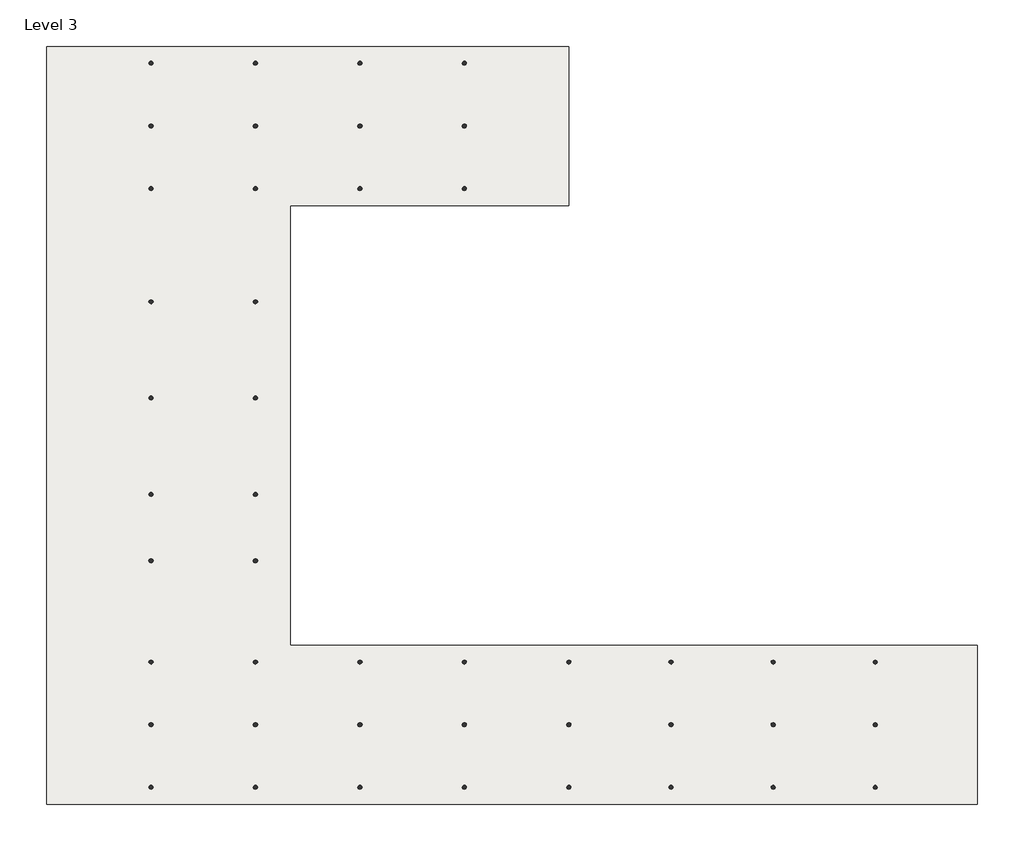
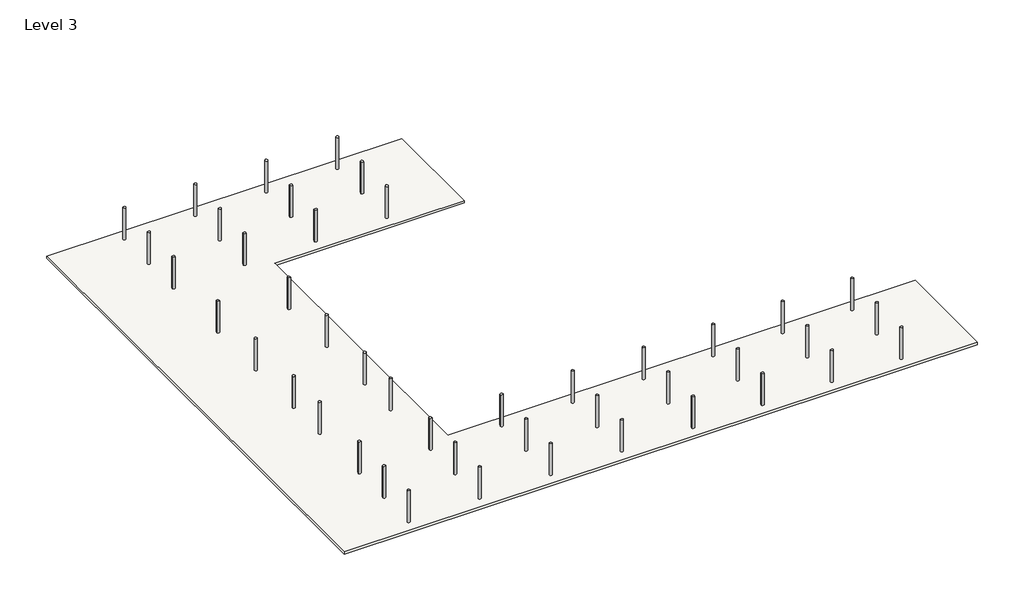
# One storey: 44 columns, 1 slab.
"""IFC4 building model written with IfcOpenShell, lengths in millimetres."""

from ifc_helpers import new_model, si_unit, frame, origin, place, context, project, spatial, polyline, outline, extrude, transform, mapped, element, save
from components import m_concrete_round_column_300mm_4ff81acd

model = new_model("IFC4")

# Units and contexts
model_context = context("Model", 3, world=origin())
ifc_project = project(units=[si_unit("LENGTHUNIT", "METRE", prefix="MILLI")], contexts=[model_context])

# Site, building, storey
site = spatial("IfcSite", under=ifc_project)
building = spatial("IfcBuilding", under=site)
storey = spatial("IfcBuildingStorey", under=building, Name="Level 3", Elevation=7800.0)

# Columns
placement = place(None, origin())
m_concrete_round_column_300mm_shape = m_concrete_round_column_300mm_4ff81acd(model_context)
element("IfcColumn", 1, ObjectType="M_Concrete-Round-Column : 300mm", at=placement, inside=storey, context=model_context, shape_type="MappedRepresentation", body=[
    mapped(m_concrete_round_column_300mm_shape, transform((-2539.0909489, 25116.7095931, 0.0), x_axis=(-1.0, 0.0, 0.0), y_axis=(0.0, -1.0, 0.0), z_axis=(0.0, 0.0, 1.0))),
])
element("IfcColumn", 2, ObjectType="M_Concrete-Round-Column : 300mm", at=placement, inside=storey, context=model_context, shape_type="MappedRepresentation", body=[
    mapped(m_concrete_round_column_300mm_shape, transform((-2539.0909489, 12506.7392059, 0.0), x_axis=(-1.0, 0.0, 0.0), y_axis=(0.0, -1.0, 0.0), z_axis=(0.0, 0.0, 1.0))),
])
element("IfcColumn", 3, ObjectType="M_Concrete-Round-Column : 300mm", at=placement, inside=storey, context=model_context, shape_type="MappedRepresentation", body=[
    mapped(m_concrete_round_column_300mm_shape, transform((-2539.0909489, 5598.6392059, 0.0), x_axis=(-1.0, 0.0, 0.0), y_axis=(0.0, -1.0, 0.0), z_axis=(0.0, 0.0, 1.0))),
])
element("IfcColumn", 4, ObjectType="M_Concrete-Round-Column : 300mm", at=placement, inside=storey, context=model_context, shape_type="MappedRepresentation", body=[
    mapped(m_concrete_round_column_300mm_shape, transform((-2539.0909489, -1309.4607941, 0.0), x_axis=(-1.0, 0.0, 0.0), y_axis=(0.0, -1.0, 0.0), z_axis=(0.0, 0.0, 1.0))),
])
element("IfcColumn", 5, ObjectType="M_Concrete-Round-Column : 300mm", at=placement, inside=storey, context=model_context, shape_type="MappedRepresentation", body=[
    mapped(m_concrete_round_column_300mm_shape, transform((-2539.0909489, -6063.8611817, 0.0), x_axis=(-1.0, 0.0, 0.0), y_axis=(0.0, -1.0, 0.0), z_axis=(0.0, 0.0, 1.0))),
])
element("IfcColumn", 6, ObjectType="M_Concrete-Round-Column : 300mm", at=placement, inside=storey, context=model_context, shape_type="MappedRepresentation", body=[
    mapped(m_concrete_round_column_300mm_shape, transform((-2539.0909489, -17821.5310875, 0.0), x_axis=(-1.0, 0.0, 0.0), y_axis=(0.0, -1.0, 0.0), z_axis=(0.0, 0.0, 1.0))),
])
element("IfcColumn", 7, ObjectType="M_Concrete-Round-Column : 300mm", at=placement, inside=storey, context=model_context, shape_type="MappedRepresentation", body=[
    mapped(m_concrete_round_column_300mm_shape, transform((-2539.0909489, 29618.5799804, 0.0), x_axis=(-1.0, 0.0, 0.0), y_axis=(0.0, -1.0, 0.0), z_axis=(0.0, 0.0, 1.0))),
])
element("IfcColumn", 8, ObjectType="M_Concrete-Round-Column : 300mm", at=placement, inside=storey, context=model_context, shape_type="MappedRepresentation", body=[
    mapped(m_concrete_round_column_300mm_shape, transform((-2539.0909489, 20614.8392059, 0.0), x_axis=(-1.0, 0.0, 0.0), y_axis=(0.0, -1.0, 0.0), z_axis=(0.0, 0.0, 1.0))),
])
element("IfcColumn", 9, ObjectType="M_Concrete-Round-Column : 300mm", at=placement, inside=storey, context=model_context, shape_type="MappedRepresentation", body=[
    mapped(m_concrete_round_column_300mm_shape, transform((-2539.0909489, -13332.3615692, 0.0), x_axis=(-1.0, 0.0, 0.0), y_axis=(0.0, -1.0, 0.0), z_axis=(0.0, 0.0, 1.0))),
])
element("IfcColumn", 10, ObjectType="M_Concrete-Round-Column : 300mm", at=placement, inside=storey, context=model_context, shape_type="MappedRepresentation", body=[
    mapped(m_concrete_round_column_300mm_shape, transform((-2539.0909489, -22310.7006057, 0.0), x_axis=(-1.0, 0.0, 0.0), y_axis=(0.0, -1.0, 0.0), z_axis=(0.0, 0.0, 1.0))),
])
element("IfcColumn", 11, ObjectType="M_Concrete-Round-Column : 300mm", at=placement, inside=storey, context=model_context, shape_type="MappedRepresentation", body=[
    mapped(m_concrete_round_column_300mm_shape, transform((4948.6567657, 25116.7095931, 0.0), x_axis=(-1.0, 0.0, 0.0), y_axis=(0.0, -1.0, 0.0), z_axis=(0.0, 0.0, 1.0))),
])
element("IfcColumn", 12, ObjectType="M_Concrete-Round-Column : 300mm", at=placement, inside=storey, context=model_context, shape_type="MappedRepresentation", body=[
    mapped(m_concrete_round_column_300mm_shape, transform((4948.6567657, 12506.7392059, 0.0), x_axis=(-1.0, 0.0, 0.0), y_axis=(0.0, -1.0, 0.0), z_axis=(0.0, 0.0, 1.0))),
])
element("IfcColumn", 13, ObjectType="M_Concrete-Round-Column : 300mm", at=placement, inside=storey, context=model_context, shape_type="MappedRepresentation", body=[
    mapped(m_concrete_round_column_300mm_shape, transform((4948.6567657, 5598.6392059, 0.0), x_axis=(-1.0, 0.0, 0.0), y_axis=(0.0, -1.0, 0.0), z_axis=(0.0, 0.0, 1.0))),
])
element("IfcColumn", 14, ObjectType="M_Concrete-Round-Column : 300mm", at=placement, inside=storey, context=model_context, shape_type="MappedRepresentation", body=[
    mapped(m_concrete_round_column_300mm_shape, transform((4948.6567657, -1309.4607941, 0.0), x_axis=(-1.0, 0.0, 0.0), y_axis=(0.0, -1.0, 0.0), z_axis=(0.0, 0.0, 1.0))),
])
element("IfcColumn", 15, ObjectType="M_Concrete-Round-Column : 300mm", at=placement, inside=storey, context=model_context, shape_type="MappedRepresentation", body=[
    mapped(m_concrete_round_column_300mm_shape, transform((4948.6567657, -6063.8611817, 0.0), x_axis=(-1.0, 0.0, 0.0), y_axis=(0.0, -1.0, 0.0), z_axis=(0.0, 0.0, 1.0))),
])
element("IfcColumn", 16, ObjectType="M_Concrete-Round-Column : 300mm", at=placement, inside=storey, context=model_context, shape_type="MappedRepresentation", body=[
    mapped(m_concrete_round_column_300mm_shape, transform((4948.6567657, -17821.5310875, 0.0), x_axis=(-1.0, 0.0, 0.0), y_axis=(0.0, -1.0, 0.0), z_axis=(0.0, 0.0, 1.0))),
])
element("IfcColumn", 17, ObjectType="M_Concrete-Round-Column : 300mm", at=placement, inside=storey, context=model_context, shape_type="MappedRepresentation", body=[
    mapped(m_concrete_round_column_300mm_shape, transform((4948.6567657, 29618.5799804, 0.0), x_axis=(-1.0, 0.0, 0.0), y_axis=(0.0, -1.0, 0.0), z_axis=(0.0, 0.0, 1.0))),
])
element("IfcColumn", 18, ObjectType="M_Concrete-Round-Column : 300mm", at=placement, inside=storey, context=model_context, shape_type="MappedRepresentation", body=[
    mapped(m_concrete_round_column_300mm_shape, transform((4948.6567657, 20614.8392059, 0.0), x_axis=(-1.0, 0.0, 0.0), y_axis=(0.0, -1.0, 0.0), z_axis=(0.0, 0.0, 1.0))),
])
element("IfcColumn", 19, ObjectType="M_Concrete-Round-Column : 300mm", at=placement, inside=storey, context=model_context, shape_type="MappedRepresentation", body=[
    mapped(m_concrete_round_column_300mm_shape, transform((4948.6567657, -13332.3615692, 0.0), x_axis=(-1.0, 0.0, 0.0), y_axis=(0.0, -1.0, 0.0), z_axis=(0.0, 0.0, 1.0))),
])
element("IfcColumn", 20, ObjectType="M_Concrete-Round-Column : 300mm", at=placement, inside=storey, context=model_context, shape_type="MappedRepresentation", body=[
    mapped(m_concrete_round_column_300mm_shape, transform((4948.6567657, -22310.7006057, 0.0), x_axis=(-1.0, 0.0, 0.0), y_axis=(0.0, -1.0, 0.0), z_axis=(0.0, 0.0, 1.0))),
])
element("IfcColumn", 21, ObjectType="M_Concrete-Round-Column : 300mm", at=placement, inside=storey, context=model_context, shape_type="MappedRepresentation", body=[
    mapped(m_concrete_round_column_300mm_shape, transform((12436.4044804, 25116.7095931, 0.0), x_axis=(-1.0, 0.0, 0.0), y_axis=(0.0, -1.0, 0.0), z_axis=(0.0, 0.0, 1.0))),
])
element("IfcColumn", 22, ObjectType="M_Concrete-Round-Column : 300mm", at=placement, inside=storey, context=model_context, shape_type="MappedRepresentation", body=[
    mapped(m_concrete_round_column_300mm_shape, transform((12436.4044804, -17821.5310875, 0.0), x_axis=(-1.0, 0.0, 0.0), y_axis=(0.0, -1.0, 0.0), z_axis=(0.0, 0.0, 1.0))),
])
element("IfcColumn", 23, ObjectType="M_Concrete-Round-Column : 300mm", at=placement, inside=storey, context=model_context, shape_type="MappedRepresentation", body=[
    mapped(m_concrete_round_column_300mm_shape, transform((12436.4044804, 29618.5799804, 0.0), x_axis=(-1.0, 0.0, 0.0), y_axis=(0.0, -1.0, 0.0), z_axis=(0.0, 0.0, 1.0))),
])
element("IfcColumn", 24, ObjectType="M_Concrete-Round-Column : 300mm", at=placement, inside=storey, context=model_context, shape_type="MappedRepresentation", body=[
    mapped(m_concrete_round_column_300mm_shape, transform((12436.4044804, 20614.8392059, 0.0), x_axis=(-1.0, 0.0, 0.0), y_axis=(0.0, -1.0, 0.0), z_axis=(0.0, 0.0, 1.0))),
])
element("IfcColumn", 25, ObjectType="M_Concrete-Round-Column : 300mm", at=placement, inside=storey, context=model_context, shape_type="MappedRepresentation", body=[
    mapped(m_concrete_round_column_300mm_shape, transform((12436.4044804, -13332.3615692, 0.0), x_axis=(-1.0, 0.0, 0.0), y_axis=(0.0, -1.0, 0.0), z_axis=(0.0, 0.0, 1.0))),
])
element("IfcColumn", 26, ObjectType="M_Concrete-Round-Column : 300mm", at=placement, inside=storey, context=model_context, shape_type="MappedRepresentation", body=[
    mapped(m_concrete_round_column_300mm_shape, transform((12436.4044804, -22310.7006057, 0.0), x_axis=(-1.0, 0.0, 0.0), y_axis=(0.0, -1.0, 0.0), z_axis=(0.0, 0.0, 1.0))),
])
element("IfcColumn", 27, ObjectType="M_Concrete-Round-Column : 300mm", at=placement, inside=storey, context=model_context, shape_type="MappedRepresentation", body=[
    mapped(m_concrete_round_column_300mm_shape, transform((19924.152195, 25116.7095931, 0.0), x_axis=(-1.0, 0.0, 0.0), y_axis=(0.0, -1.0, 0.0), z_axis=(0.0, 0.0, 1.0))),
])
element("IfcColumn", 28, ObjectType="M_Concrete-Round-Column : 300mm", at=placement, inside=storey, context=model_context, shape_type="MappedRepresentation", body=[
    mapped(m_concrete_round_column_300mm_shape, transform((19924.152195, -17821.5310875, 0.0), x_axis=(-1.0, 0.0, 0.0), y_axis=(0.0, -1.0, 0.0), z_axis=(0.0, 0.0, 1.0))),
])
element("IfcColumn", 29, ObjectType="M_Concrete-Round-Column : 300mm", at=placement, inside=storey, context=model_context, shape_type="MappedRepresentation", body=[
    mapped(m_concrete_round_column_300mm_shape, transform((19924.152195, 29618.5799804, 0.0), x_axis=(-1.0, 0.0, 0.0), y_axis=(0.0, -1.0, 0.0), z_axis=(0.0, 0.0, 1.0))),
])
element("IfcColumn", 30, ObjectType="M_Concrete-Round-Column : 300mm", at=placement, inside=storey, context=model_context, shape_type="MappedRepresentation", body=[
    mapped(m_concrete_round_column_300mm_shape, transform((19924.152195, 20614.8392059, 0.0), x_axis=(-1.0, 0.0, 0.0), y_axis=(0.0, -1.0, 0.0), z_axis=(0.0, 0.0, 1.0))),
])
element("IfcColumn", 31, ObjectType="M_Concrete-Round-Column : 300mm", at=placement, inside=storey, context=model_context, shape_type="MappedRepresentation", body=[
    mapped(m_concrete_round_column_300mm_shape, transform((19924.152195, -13332.3615692, 0.0), x_axis=(-1.0, 0.0, 0.0), y_axis=(0.0, -1.0, 0.0), z_axis=(0.0, 0.0, 1.0))),
])
element("IfcColumn", 32, ObjectType="M_Concrete-Round-Column : 300mm", at=placement, inside=storey, context=model_context, shape_type="MappedRepresentation", body=[
    mapped(m_concrete_round_column_300mm_shape, transform((19924.152195, -22310.7006057, 0.0), x_axis=(-1.0, 0.0, 0.0), y_axis=(0.0, -1.0, 0.0), z_axis=(0.0, 0.0, 1.0))),
])
element("IfcColumn", 33, ObjectType="M_Concrete-Round-Column : 300mm", at=placement, inside=storey, context=model_context, shape_type="MappedRepresentation", body=[
    mapped(m_concrete_round_column_300mm_shape, transform((27411.8999097, -17821.5310875, 0.0), x_axis=(-1.0, 0.0, 0.0), y_axis=(0.0, -1.0, 0.0), z_axis=(0.0, 0.0, 1.0))),
])
element("IfcColumn", 34, ObjectType="M_Concrete-Round-Column : 300mm", at=placement, inside=storey, context=model_context, shape_type="MappedRepresentation", body=[
    mapped(m_concrete_round_column_300mm_shape, transform((27411.8999097, -13332.3615692, 0.0), x_axis=(-1.0, 0.0, 0.0), y_axis=(0.0, -1.0, 0.0), z_axis=(0.0, 0.0, 1.0))),
])
element("IfcColumn", 35, ObjectType="M_Concrete-Round-Column : 300mm", at=placement, inside=storey, context=model_context, shape_type="MappedRepresentation", body=[
    mapped(m_concrete_round_column_300mm_shape, transform((27411.8999097, -22310.7006057, 0.0), x_axis=(-1.0, 0.0, 0.0), y_axis=(0.0, -1.0, 0.0), z_axis=(0.0, 0.0, 1.0))),
])
element("IfcColumn", 36, ObjectType="M_Concrete-Round-Column : 300mm", at=placement, inside=storey, context=model_context, shape_type="MappedRepresentation", body=[
    mapped(m_concrete_round_column_300mm_shape, transform((34733.7042668, -17821.5310875, 0.0), x_axis=(-1.0, 0.0, 0.0), y_axis=(0.0, -1.0, 0.0), z_axis=(0.0, 0.0, 1.0))),
])
element("IfcColumn", 37, ObjectType="M_Concrete-Round-Column : 300mm", at=placement, inside=storey, context=model_context, shape_type="MappedRepresentation", body=[
    mapped(m_concrete_round_column_300mm_shape, transform((34733.7042668, -13332.3615692, 0.0), x_axis=(-1.0, 0.0, 0.0), y_axis=(0.0, -1.0, 0.0), z_axis=(0.0, 0.0, 1.0))),
])
element("IfcColumn", 38, ObjectType="M_Concrete-Round-Column : 300mm", at=placement, inside=storey, context=model_context, shape_type="MappedRepresentation", body=[
    mapped(m_concrete_round_column_300mm_shape, transform((34733.7042668, -22310.7006057, 0.0), x_axis=(-1.0, 0.0, 0.0), y_axis=(0.0, -1.0, 0.0), z_axis=(0.0, 0.0, 1.0))),
])
element("IfcColumn", 39, ObjectType="M_Concrete-Round-Column : 300mm", at=placement, inside=storey, context=model_context, shape_type="MappedRepresentation", body=[
    mapped(m_concrete_round_column_300mm_shape, transform((42055.5086239, -17821.5310875, 0.0), x_axis=(-1.0, 0.0, 0.0), y_axis=(0.0, -1.0, 0.0), z_axis=(0.0, 0.0, 1.0))),
])
element("IfcColumn", 40, ObjectType="M_Concrete-Round-Column : 300mm", at=placement, inside=storey, context=model_context, shape_type="MappedRepresentation", body=[
    mapped(m_concrete_round_column_300mm_shape, transform((42055.5086239, -13332.3615692, 0.0), x_axis=(-1.0, 0.0, 0.0), y_axis=(0.0, -1.0, 0.0), z_axis=(0.0, 0.0, 1.0))),
])
element("IfcColumn", 41, ObjectType="M_Concrete-Round-Column : 300mm", at=placement, inside=storey, context=model_context, shape_type="MappedRepresentation", body=[
    mapped(m_concrete_round_column_300mm_shape, transform((42055.5086239, -22310.7006057, 0.0), x_axis=(-1.0, 0.0, 0.0), y_axis=(0.0, -1.0, 0.0), z_axis=(0.0, 0.0, 1.0))),
])
element("IfcColumn", 42, ObjectType="M_Concrete-Round-Column : 300mm", at=placement, inside=storey, context=model_context, shape_type="MappedRepresentation", body=[
    mapped(m_concrete_round_column_300mm_shape, transform((49377.3129811, -17821.5310875, 0.0), x_axis=(-1.0, 0.0, 0.0), y_axis=(0.0, -1.0, 0.0), z_axis=(0.0, 0.0, 1.0))),
])
element("IfcColumn", 43, ObjectType="M_Concrete-Round-Column : 300mm", at=placement, inside=storey, context=model_context, shape_type="MappedRepresentation", body=[
    mapped(m_concrete_round_column_300mm_shape, transform((49377.3129811, -13332.3615692, 0.0), x_axis=(-1.0, 0.0, 0.0), y_axis=(0.0, -1.0, 0.0), z_axis=(0.0, 0.0, 1.0))),
])
element("IfcColumn", 44, ObjectType="M_Concrete-Round-Column : 300mm", at=placement, inside=storey, context=model_context, shape_type="MappedRepresentation", body=[
    mapped(m_concrete_round_column_300mm_shape, transform((49377.3129811, -22310.7006057, 0.0), x_axis=(-1.0, 0.0, 0.0), y_axis=(0.0, -1.0, 0.0), z_axis=(0.0, 0.0, 1.0))),
])

# Slab
element("IfcSlab", 45, ObjectType="250mm Concrete", at=placement, inside=storey, context=model_context, shape_type="SweptSolid", body=[
    extrude(outline(polyline([(27411.8999097, 30818.5799804), (27411.8999097, 19414.8392059), (7447.5010724, 19414.8392059), (7447.5010724, -12132.3615692), (56699.1173382, -12132.3615692), (56699.1173382, -23510.7006057), (-10026.8386635, -23510.7006057), (-10026.8386635, 30818.5799804), (27411.8999097, 30818.5799804)])), frame((0.0, 0.0, 7550.0), z_axis=(0.0, 0.0, 1.0), x_axis=(1.0, 0.0, 0.0)), (0.0, 0.0, 1.0), 250.0),
])

save(model, "model.ifc")
